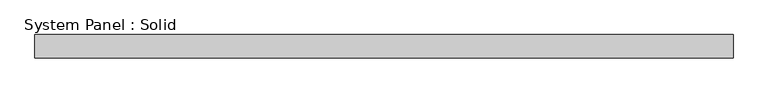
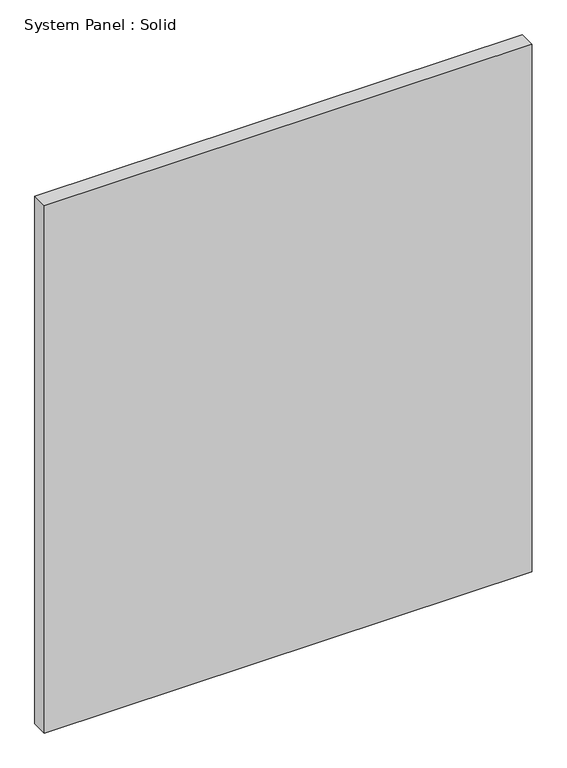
"""IFC4 building model written with IfcOpenShell, lengths in millimetres: plate geometry, System Panel : Solid."""

from ifc_helpers import new_model, si_unit, origin, origin_with_axes, place, context, project, spatial, polyline, outline, extrude, source, transform, mapped, element, save


def system_panel_solid_672106cc(model_context):
    return source(origin(), model_context, "Body", "SweptSolid", [
        extrude(outline(polyline([(525.0, -2.5), (-525.0, -2.5), (-525.0, 32.5), (525.0, 32.5), (525.0, -2.5)])), origin_with_axes(), (0.0, 0.0, 1.0), 1200.0),
    ])


if __name__ == "__main__":
    model = new_model("IFC4")
    model_context = context("Model", 3, world=origin())
    ifc_project = project(units=[si_unit("LENGTHUNIT", "METRE", prefix="MILLI")], contexts=[model_context])
    site = spatial("IfcSite", under=ifc_project)
    building = spatial("IfcBuilding", under=site)
    placement = place(None, origin())
    system_panel_solid_shape = system_panel_solid_672106cc(model_context)
    element("IfcPlate", 1, ObjectType="System Panel : Solid", at=placement, inside=building, context=model_context, shape_type="MappedRepresentation", body=[
        mapped(system_panel_solid_shape, transform((0.0, 0.0, 0.0), x_axis=(1.0, 0.0, 0.0), y_axis=(0.0, 1.0, 0.0), z_axis=(0.0, 0.0, 1.0))),
    ])
    save(model, "model.ifc")
